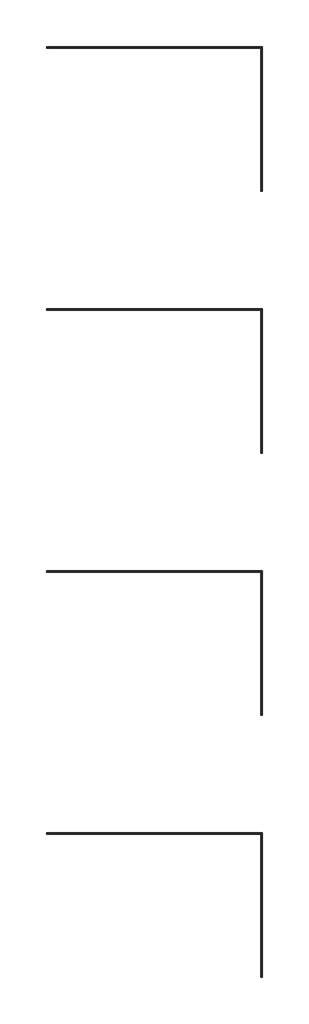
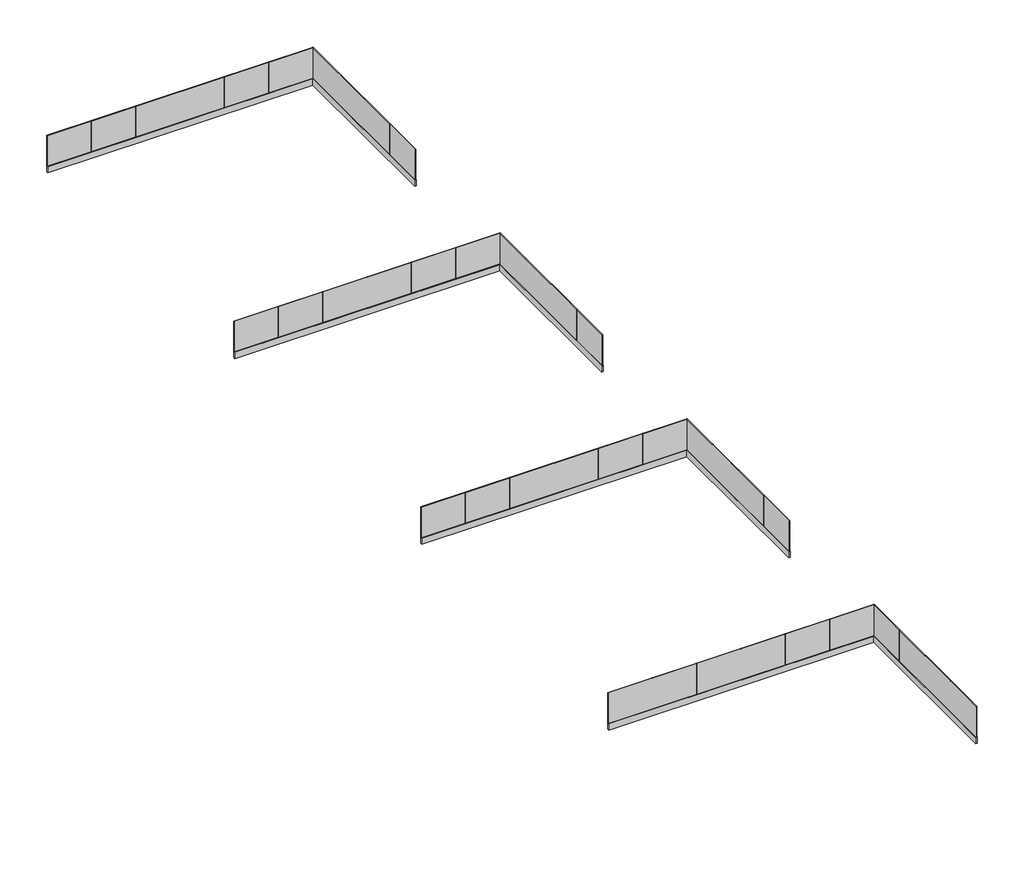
# One storey: 4 railings.
"""IFC4 building model written with IfcOpenShell, lengths in millimetres."""

from ifc_helpers import new_model, si_unit, origin, origin_with_axes, place, context, project, spatial, polyline, outline, extrude, faceted_brep, element, save

model = new_model("IFC4")

# Units and contexts
model_context = context("Model", 3, world=origin())
ifc_project = project(units=[si_unit("LENGTHUNIT", "METRE", prefix="MILLI")], contexts=[model_context])

# Site, building, storey
site = spatial("IfcSite", under=ifc_project)
building = spatial("IfcBuilding", under=site)
storey = spatial("IfcBuildingStorey", under=building, Name="レベル 1", Elevation=0.0)

# Railings
placement = place(None, origin())
element("IfcRailing", 1, ObjectType="バラストレイド Proタイプ 壁付用Y型 ガラス12mm", at=placement, inside=storey, context=model_context, shape_type="SolidModel", body=[
    faceted_brep([(-7072.0241721, 2641.037995, 1100.0), (-7072.0241721, 2641.037995, 0.0), (-7072.0241721, 2626.037995, 0.0), (-7072.0241721, 2626.037995, 1100.0), (1967.4758279, 2641.037995, 1100.0), (1967.4758279, 2641.037995, 0.0), (1952.4758279, 2626.037995, 0.0), (1952.4758279, 2626.037995, 1100.0), (1967.4758279, -3398.462005, 1100.0), (1952.4758279, -3398.462005, 1100.0), (1952.4758279, -3398.462005, 0.0), (1967.4758279, -3398.462005, 0.0)], [[[0, 1, 2, 3]], [[1, 0, 4, 5]], [[2, 1, 5, 6]], [[3, 2, 6, 7]], [[0, 3, 7, 4]], [[8, 9, 10, 11]], [[5, 4, 8, 11]], [[6, 5, 11, 10]], [[7, 6, 10, 9]], [[4, 7, 9, 8]]]),
    faceted_brep([(-7072.0241721, 2601.537995, 0.0), (-7072.0241721, 2665.537995, 0.0), (-7072.0241721, 2665.537995, -220.0), (-7072.0241721, 2601.537995, -220.0), (1927.9758279, 2601.537995, 0.0), (1991.9758279, 2665.537995, 0.0), (1991.9758279, 2665.537995, -220.0), (1927.9758279, 2601.537995, -220.0), (1927.9758279, -3398.462005, 0.0), (1927.9758279, -3398.462005, -220.0), (1991.9758279, -3398.462005, -220.0), (1991.9758279, -3398.462005, 0.0)], [[[0, 1, 2, 3]], [[1, 0, 4, 5]], [[3, 2, 6, 7]], [[0, 3, 7, 4]], [[8, 9, 10, 11]], [[5, 4, 8, 11]], [[7, 6, 10, 9]], [[4, 7, 9, 8]], [[2, 1, 5, 6]], [[6, 5, 11, 10]]]),
    extrude(outline(polyline([(1965.9758279, -1880.462005), (1965.9758279, -1900.462005), (1953.9758279, -1900.462005), (1953.9758279, -1880.462005), (1965.9758279, -1880.462005)])), origin_with_axes(), (0.0, 0.0, 1.0), 1100.0),
    extrude(outline(polyline([(1965.9758279, -372.462005), (1965.9758279, -392.462005), (1953.9758279, -392.462005), (1953.9758279, -372.462005), (1965.9758279, -372.462005)])), origin_with_axes(), (0.0, 0.0, 1.0), 1100.0),
    extrude(outline(polyline([(1965.9758279, 1135.537995), (1965.9758279, 1115.537995), (1953.9758279, 1115.537995), (1953.9758279, 1135.537995), (1965.9758279, 1135.537995)])), origin_with_axes(), (0.0, 0.0, 1.0), 1100.0),
    extrude(outline(polyline([(444.6424945, 2639.537995), (464.6424945, 2639.537995), (464.6424945, 2627.537995), (444.6424945, 2627.537995), (444.6424945, 2639.537995)])), origin_with_axes(), (0.0, 0.0, 1.0), 1100.0),
    extrude(outline(polyline([(-1060.6908388, 2639.537995), (-1040.6908388, 2639.537995), (-1040.6908388, 2627.537995), (-1060.6908388, 2627.537995), (-1060.6908388, 2639.537995)])), origin_with_axes(), (0.0, 0.0, 1.0), 1100.0),
    extrude(outline(polyline([(-2566.0241721, 2639.537995), (-2546.0241721, 2639.537995), (-2546.0241721, 2627.537995), (-2566.0241721, 2627.537995), (-2566.0241721, 2639.537995)])), origin_with_axes(), (0.0, 0.0, 1.0), 1100.0),
    extrude(outline(polyline([(-4071.3575055, 2639.537995), (-4051.3575055, 2639.537995), (-4051.3575055, 2627.537995), (-4071.3575055, 2627.537995), (-4071.3575055, 2639.537995)])), origin_with_axes(), (0.0, 0.0, 1.0), 1100.0),
    extrude(outline(polyline([(-5576.6908388, 2639.537995), (-5556.6908388, 2639.537995), (-5556.6908388, 2627.537995), (-5576.6908388, 2627.537995), (-5576.6908388, 2639.537995)])), origin_with_axes(), (0.0, 0.0, 1.0), 1100.0),
    extrude(outline(polyline([(1953.9758279, 2639.537995), (1965.9758279, 2639.537995), (1965.9758279, 2627.537995), (1953.9758279, 2627.537995), (1953.9758279, 2639.537995)])), origin_with_axes(), (0.0, 0.0, 1.0), 1100.0),
])
element("IfcRailing", 2, ObjectType="バラストレイド Proタイプ 壁付用Y型 ガラス15mm", at=placement, inside=storey, context=model_context, shape_type="SolidModel", body=[
    faceted_brep([(-7072.0241721, -8358.962005, 1100.0), (-7072.0241721, -8358.962005, 0.0), (-7072.0241721, -8373.962005, 0.0), (-7072.0241721, -8373.962005, 1100.0), (1967.4758279, -8358.962005, 1100.0), (1967.4758279, -8358.962005, 0.0), (1952.4758279, -8373.962005, 0.0), (1952.4758279, -8373.962005, 1100.0), (1967.4758279, -14398.462005, 1100.0), (1952.4758279, -14398.462005, 1100.0), (1952.4758279, -14398.462005, 0.0), (1967.4758279, -14398.462005, 0.0)], [[[0, 1, 2, 3]], [[1, 0, 4, 5]], [[2, 1, 5, 6]], [[3, 2, 6, 7]], [[0, 3, 7, 4]], [[8, 9, 10, 11]], [[5, 4, 8, 11]], [[6, 5, 11, 10]], [[7, 6, 10, 9]], [[4, 7, 9, 8]]]),
    faceted_brep([(-7072.0241721, -8398.462005, 0.0), (-7072.0241721, -8334.462005, 0.0), (-7072.0241721, -8334.462005, -220.0), (-7072.0241721, -8398.462005, -220.0), (1927.9758279, -8398.462005, 0.0), (1991.9758279, -8334.462005, 0.0), (1991.9758279, -8334.462005, -220.0), (1927.9758279, -8398.462005, -220.0), (1927.9758279, -14398.462005, 0.0), (1927.9758279, -14398.462005, -220.0), (1991.9758279, -14398.462005, -220.0), (1991.9758279, -14398.462005, 0.0)], [[[0, 1, 2, 3]], [[1, 0, 4, 5]], [[3, 2, 6, 7]], [[0, 3, 7, 4]], [[8, 9, 10, 11]], [[5, 4, 8, 11]], [[7, 6, 10, 9]], [[4, 7, 9, 8]], [[2, 1, 5, 6]], [[6, 5, 11, 10]]]),
    extrude(outline(polyline([(1967.4758279, -12880.462005), (1967.4758279, -12900.462005), (1952.4758279, -12900.462005), (1952.4758279, -12880.462005), (1967.4758279, -12880.462005)])), origin_with_axes(), (0.0, 0.0, 1.0), 1100.0),
    extrude(outline(polyline([(1967.4758279, -11372.462005), (1967.4758279, -11392.462005), (1952.4758279, -11392.462005), (1952.4758279, -11372.462005), (1967.4758279, -11372.462005)])), origin_with_axes(), (0.0, 0.0, 1.0), 1100.0),
    extrude(outline(polyline([(1967.4758279, -9864.462005), (1967.4758279, -9884.462005), (1952.4758279, -9884.462005), (1952.4758279, -9864.462005), (1967.4758279, -9864.462005)])), origin_with_axes(), (0.0, 0.0, 1.0), 1100.0),
    extrude(outline(polyline([(444.6424945, -8358.962005), (464.6424945, -8358.962005), (464.6424945, -8373.962005), (444.6424945, -8373.962005), (444.6424945, -8358.962005)])), origin_with_axes(), (0.0, 0.0, 1.0), 1100.0),
    extrude(outline(polyline([(-1060.6908388, -8358.962005), (-1040.6908388, -8358.962005), (-1040.6908388, -8373.962005), (-1060.6908388, -8373.962005), (-1060.6908388, -8358.962005)])), origin_with_axes(), (0.0, 0.0, 1.0), 1100.0),
    extrude(outline(polyline([(-2566.0241721, -8358.962005), (-2546.0241721, -8358.962005), (-2546.0241721, -8373.962005), (-2566.0241721, -8373.962005), (-2566.0241721, -8358.962005)])), origin_with_axes(), (0.0, 0.0, 1.0), 1100.0),
    extrude(outline(polyline([(-4071.3575055, -8358.962005), (-4051.3575055, -8358.962005), (-4051.3575055, -8373.962005), (-4071.3575055, -8373.962005), (-4071.3575055, -8358.962005)])), origin_with_axes(), (0.0, 0.0, 1.0), 1100.0),
    extrude(outline(polyline([(-5576.6908388, -8358.962005), (-5556.6908388, -8358.962005), (-5556.6908388, -8373.962005), (-5576.6908388, -8373.962005), (-5576.6908388, -8358.962005)])), origin_with_axes(), (0.0, 0.0, 1.0), 1100.0),
    extrude(outline(polyline([(1952.4758279, -8358.962005), (1967.4758279, -8358.962005), (1967.4758279, -8373.962005), (1952.4758279, -8373.962005), (1952.4758279, -8358.962005)])), origin_with_axes(), (0.0, 0.0, 1.0), 1100.0),
])
element("IfcRailing", 3, ObjectType="バラストレイド Proタイプ 壁付用Y型 ガラス8+8mm", at=placement, inside=storey, context=model_context, shape_type="SolidModel", body=[
    faceted_brep([(-7072.0241721, -19357.712005, 1100.0), (-7072.0241721, -19357.712005, 0.0), (-7072.0241721, -19375.212005, 0.0), (-7072.0241721, -19375.212005, 1100.0), (1968.7258279, -19357.712005, 1100.0), (1968.7258279, -19357.712005, 0.0), (1951.2258279, -19375.212005, 0.0), (1951.2258279, -19375.212005, 1100.0), (1968.7258279, -25398.462005, 1100.0), (1951.2258279, -25398.462005, 1100.0), (1951.2258279, -25398.462005, 0.0), (1968.7258279, -25398.462005, 0.0)], [[[0, 1, 2, 3]], [[1, 0, 4, 5]], [[2, 1, 5, 6]], [[3, 2, 6, 7]], [[0, 3, 7, 4]], [[8, 9, 10, 11]], [[5, 4, 8, 11]], [[6, 5, 11, 10]], [[7, 6, 10, 9]], [[4, 7, 9, 8]]]),
    faceted_brep([(-7072.0241721, -19398.462005, 0.0), (-7072.0241721, -19334.462005, 0.0), (-7072.0241721, -19334.462005, -220.0), (-7072.0241721, -19398.462005, -220.0), (1927.9758279, -19398.462005, 0.0), (1991.9758279, -19334.462005, 0.0), (1991.9758279, -19334.462005, -220.0), (1927.9758279, -19398.462005, -220.0), (1927.9758279, -25398.462005, 0.0), (1927.9758279, -25398.462005, -220.0), (1991.9758279, -25398.462005, -220.0), (1991.9758279, -25398.462005, 0.0)], [[[0, 1, 2, 3]], [[1, 0, 4, 5]], [[3, 2, 6, 7]], [[0, 3, 7, 4]], [[8, 9, 10, 11]], [[5, 4, 8, 11]], [[7, 6, 10, 9]], [[4, 7, 9, 8]], [[2, 1, 5, 6]], [[6, 5, 11, 10]]]),
    extrude(outline(polyline([(1968.7258279, -23880.462005), (1968.7258279, -23900.462005), (1951.2258279, -23900.462005), (1951.2258279, -23880.462005), (1968.7258279, -23880.462005)])), origin_with_axes(), (0.0, 0.0, 1.0), 1100.0),
    extrude(outline(polyline([(1968.7258279, -22372.462005), (1968.7258279, -22392.462005), (1951.2258279, -22392.462005), (1951.2258279, -22372.462005), (1968.7258279, -22372.462005)])), origin_with_axes(), (0.0, 0.0, 1.0), 1100.0),
    extrude(outline(polyline([(1968.7258279, -20864.462005), (1968.7258279, -20884.462005), (1951.2258279, -20884.462005), (1951.2258279, -20864.462005), (1968.7258279, -20864.462005)])), origin_with_axes(), (0.0, 0.0, 1.0), 1100.0),
    extrude(outline(polyline([(444.6424945, -19357.712005), (464.6424945, -19357.712005), (464.6424945, -19375.212005), (444.6424945, -19375.212005), (444.6424945, -19357.712005)])), origin_with_axes(), (0.0, 0.0, 1.0), 1100.0),
    extrude(outline(polyline([(-1060.6908388, -19357.712005), (-1040.6908388, -19357.712005), (-1040.6908388, -19375.212005), (-1060.6908388, -19375.212005), (-1060.6908388, -19357.712005)])), origin_with_axes(), (0.0, 0.0, 1.0), 1100.0),
    extrude(outline(polyline([(-2566.0241721, -19357.712005), (-2546.0241721, -19357.712005), (-2546.0241721, -19375.212005), (-2566.0241721, -19375.212005), (-2566.0241721, -19357.712005)])), origin_with_axes(), (0.0, 0.0, 1.0), 1100.0),
    extrude(outline(polyline([(-4071.3575055, -19357.712005), (-4051.3575055, -19357.712005), (-4051.3575055, -19375.212005), (-4071.3575055, -19375.212005), (-4071.3575055, -19357.712005)])), origin_with_axes(), (0.0, 0.0, 1.0), 1100.0),
    extrude(outline(polyline([(-5576.6908388, -19357.712005), (-5556.6908388, -19357.712005), (-5556.6908388, -19375.212005), (-5576.6908388, -19375.212005), (-5576.6908388, -19357.712005)])), origin_with_axes(), (0.0, 0.0, 1.0), 1100.0),
    extrude(outline(polyline([(1951.2258279, -19357.712005), (1968.7258279, -19357.712005), (1968.7258279, -19375.212005), (1951.2258279, -19375.212005), (1951.2258279, -19357.712005)])), origin_with_axes(), (0.0, 0.0, 1.0), 1100.0),
])
element("IfcRailing", 4, ObjectType="バラストレイド Proタイプ 壁付用Y型 ガラス10+10mm", at=placement, inside=storey, context=model_context, shape_type="SolidModel", body=[
    faceted_brep([(-7072.0241721, -30355.712005, 1100.0), (-7072.0241721, -30355.712005, 0.0), (-7072.0241721, -30377.212005, 0.0), (-7072.0241721, -30377.212005, 1100.0), (1970.7258279, -30355.712005, 1100.0), (1970.7258279, -30355.712005, 0.0), (1949.2258279, -30377.212005, 0.0), (1949.2258279, -30377.212005, 1100.0), (1970.7258279, -36398.462005, 1100.0), (1949.2258279, -36398.462005, 1100.0), (1949.2258279, -36398.462005, 0.0), (1970.7258279, -36398.462005, 0.0)], [[[0, 1, 2, 3]], [[1, 0, 4, 5]], [[2, 1, 5, 6]], [[3, 2, 6, 7]], [[0, 3, 7, 4]], [[8, 9, 10, 11]], [[5, 4, 8, 11]], [[6, 5, 11, 10]], [[7, 6, 10, 9]], [[4, 7, 9, 8]]]),
    faceted_brep([(-7072.0241721, -30398.462005, 0.0), (-7072.0241721, -30334.462005, 0.0), (-7072.0241721, -30334.462005, -220.0), (-7072.0241721, -30398.462005, -220.0), (1927.9758279, -30398.462005, 0.0), (1991.9758279, -30334.462005, 0.0), (1991.9758279, -30334.462005, -220.0), (1927.9758279, -30398.462005, -220.0), (1927.9758279, -36398.462005, 0.0), (1927.9758279, -36398.462005, -220.0), (1991.9758279, -36398.462005, -220.0), (1991.9758279, -36398.462005, 0.0)], [[[0, 1, 2, 3]], [[1, 0, 4, 5]], [[3, 2, 6, 7]], [[0, 3, 7, 4]], [[8, 9, 10, 11]], [[5, 4, 8, 11]], [[7, 6, 10, 9]], [[4, 7, 9, 8]], [[2, 1, 5, 6]], [[6, 5, 11, 10]]]),
    extrude(outline(polyline([(1970.7258279, -34880.462005), (1970.7258279, -34900.462005), (1949.2258279, -34900.462005), (1949.2258279, -34880.462005), (1970.7258279, -34880.462005)])), origin_with_axes(), (0.0, 0.0, 1.0), 1100.0),
    extrude(outline(polyline([(1970.7258279, -33372.462005), (1970.7258279, -33392.462005), (1949.2258279, -33392.462005), (1949.2258279, -33372.462005), (1970.7258279, -33372.462005)])), origin_with_axes(), (0.0, 0.0, 1.0), 1100.0),
    extrude(outline(polyline([(1970.7258279, -31864.462005), (1970.7258279, -31884.462005), (1949.2258279, -31884.462005), (1949.2258279, -31864.462005), (1970.7258279, -31864.462005)])), origin_with_axes(), (0.0, 0.0, 1.0), 1100.0),
    extrude(outline(polyline([(444.6424945, -30355.712005), (464.6424945, -30355.712005), (464.6424945, -30377.212005), (444.6424945, -30377.212005), (444.6424945, -30355.712005)])), origin_with_axes(), (0.0, 0.0, 1.0), 1100.0),
    extrude(outline(polyline([(-1060.6908388, -30355.712005), (-1040.6908388, -30355.712005), (-1040.6908388, -30377.212005), (-1060.6908388, -30377.212005), (-1060.6908388, -30355.712005)])), origin_with_axes(), (0.0, 0.0, 1.0), 1100.0),
    extrude(outline(polyline([(-2566.0241721, -30355.712005), (-2546.0241721, -30355.712005), (-2546.0241721, -30377.212005), (-2566.0241721, -30377.212005), (-2566.0241721, -30355.712005)])), origin_with_axes(), (0.0, 0.0, 1.0), 1100.0),
    extrude(outline(polyline([(-4071.3575055, -30355.712005), (-4051.3575055, -30355.712005), (-4051.3575055, -30377.212005), (-4071.3575055, -30377.212005), (-4071.3575055, -30355.712005)])), origin_with_axes(), (0.0, 0.0, 1.0), 1100.0),
    extrude(outline(polyline([(-5576.6908388, -30355.712005), (-5556.6908388, -30355.712005), (-5556.6908388, -30377.212005), (-5576.6908388, -30377.212005), (-5576.6908388, -30355.712005)])), origin_with_axes(), (0.0, 0.0, 1.0), 1100.0),
    extrude(outline(polyline([(1949.2258279, -30355.712005), (1970.7258279, -30355.712005), (1970.7258279, -30377.212005), (1949.2258279, -30377.212005), (1949.2258279, -30355.712005)])), origin_with_axes(), (0.0, 0.0, 1.0), 1100.0),
])

save(model, "model.ifc")
